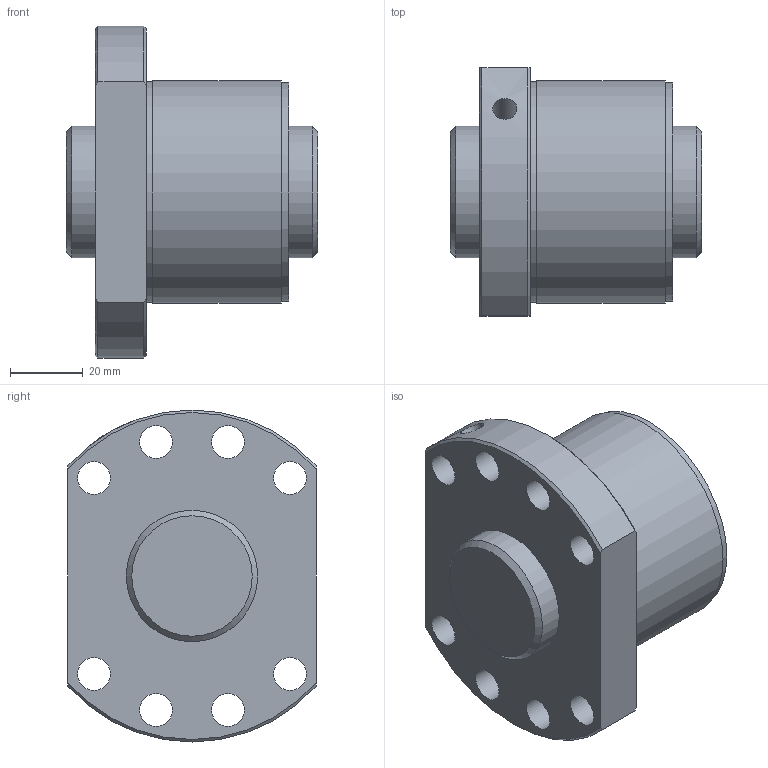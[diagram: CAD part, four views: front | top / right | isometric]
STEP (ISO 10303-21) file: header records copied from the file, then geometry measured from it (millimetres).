
FILE_DESCRIPTION(/* description */ ('STEP AP203'),/* implementation_level */ '2;1');
FILE_NAME(/* name */ 'SDA4008VZ-5G0+69LC0_0G000_rev',/* time_stamp */ '2024-07-04T07:31:45+02:00',/* author */ ('License CC BY-ND 4.0'),/* organization */ ('CADENAS'),/* preprocessor_version */ 'ST-DEVELOPER v19.3',/* originating_system */ 'PARTsolutions',/* authorisation */ ' ');
FILE_SCHEMA (('CONFIG_CONTROL_DESIGN'));
Length unit declared in the file: millimetre
Products named in the file (3): SDA4008VZ-5G0+69LC0_0G000_rev; 000SDA4008VZ-50Shaft; SDA-V serieSDA4008VZ-5nut
Assembly tree (2 placements, depth 2):
  SDA4008VZ-5G0+69LC0_0G000_rev
    000SDA4008VZ-50Shaft
    SDA-V serieSDA4008VZ-5nut
Bounding box: 69 x 68 x 91 mm (x, y, z)
Volume: 199435.7 mm3; surface area: 38583.6 mm2
Topology: 2 solids, 2 shells, 33 faces, 75 edges, 49 vertices
Faces by surface type: cylinder 17, plane 9, cone 7
Full cylindrical faces by diameter (mm): 5.2 x1, 6.647 x1, 9 x8, 36 x2, 60 x1, 60.6 x1, 61 x1
Entity records: 983 total; most frequent: CARTESIAN_POINT 184, DIRECTION 156, ORIENTED_EDGE 112, EDGE_LOOP 74, FACE_BOUND 74, AXIS2_PLACEMENT_3D 74, EDGE_CURVE 56, VERTEX_POINT 48
